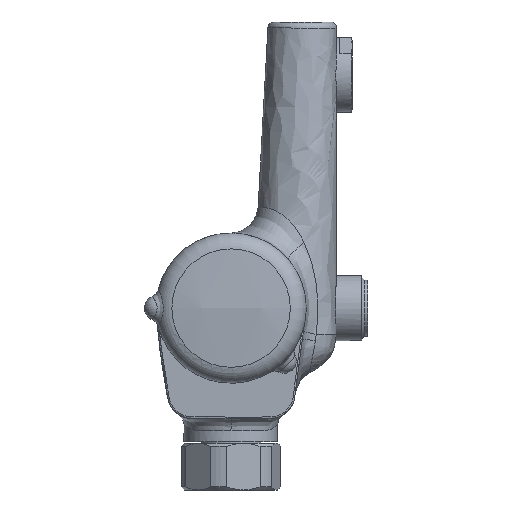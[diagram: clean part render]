
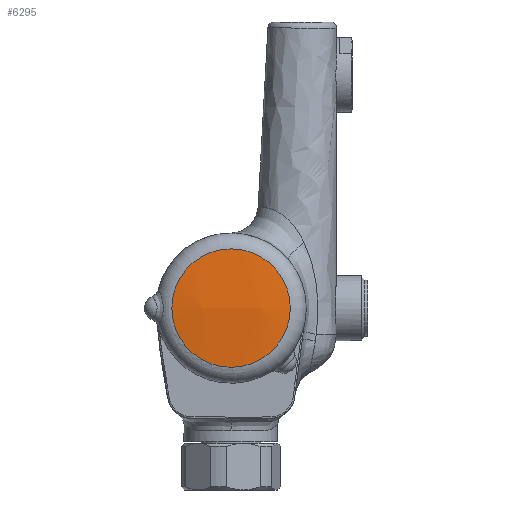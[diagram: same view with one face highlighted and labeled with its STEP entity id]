
A CAD part, left-side view. The second image highlights one B-rep face of the part: STEP entity #6295.
In plain terms, the highlighted spherical face has radius 130 mm.
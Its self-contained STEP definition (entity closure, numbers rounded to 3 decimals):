
#694 = DIRECTION ( 'NONE',  ( 0., 0., -1. ) ) ;
#2217 = AXIS2_PLACEMENT_3D ( 'NONE', #8824, #2698, #9816 ) ;
#2698 = DIRECTION ( 'NONE',  ( -1., 0., 0. ) ) ;
#2972 = FACE_OUTER_BOUND ( 'NONE', #12178, .T. ) ;
#3160 = AXIS2_PLACEMENT_3D ( 'NONE', #10675, #694, #7883 ) ;
#4067 = CIRCLE ( 'NONE', #2217, 19.051 ) ;
#5387 = ORIENTED_EDGE ( 'NONE', *, *, #6970, .T. ) ;
#6295 = ADVANCED_FACE ( 'NONE', ( #2972 ), #13158, .T. ) ;
#6970 = EDGE_CURVE ( 'NONE', #13136, #13136, #4067, .T. ) ;
#7883 = DIRECTION ( 'NONE',  ( 0., -1., 0. ) ) ;
#8824 = CARTESIAN_POINT ( 'NONE',  ( -143.239, 0., 58.5 ) ) ;
#9816 = DIRECTION ( 'NONE',  ( 0., -1., 0. ) ) ;
#10675 = CARTESIAN_POINT ( 'NONE',  ( -14.642, 0., 58.5 ) ) ;
#11039 = CARTESIAN_POINT ( 'NONE',  ( -143.239, -19.051, 58.5 ) ) ;
#12178 = EDGE_LOOP ( 'NONE', ( #5387 ) ) ;
#13136 = VERTEX_POINT ( 'NONE', #11039 ) ;
#13158 = SPHERICAL_SURFACE ( 'NONE', #3160, 130. ) ;
